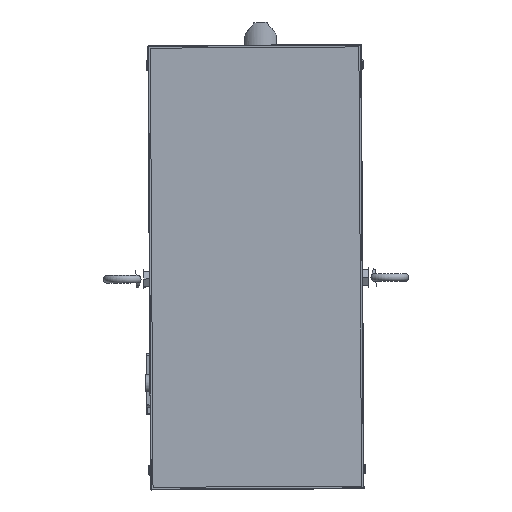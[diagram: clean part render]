
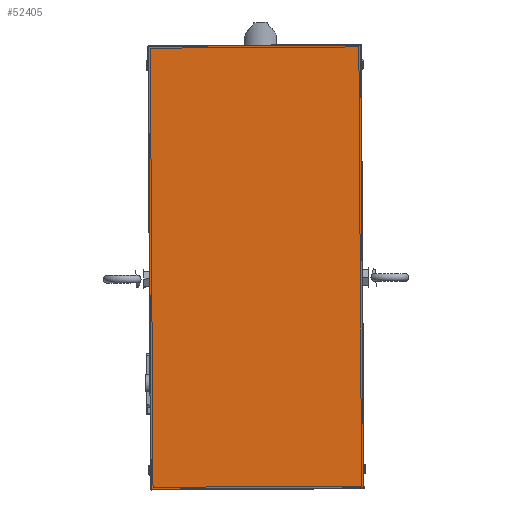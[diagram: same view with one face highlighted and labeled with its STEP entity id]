
A CAD part, top view. The second image highlights one B-rep face of the part: STEP entity #52405.
In plain terms, the highlighted planar face has unit normal (0, 0, 1).
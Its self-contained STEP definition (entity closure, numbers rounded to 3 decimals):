
#2593=PLANE('',#56734);
#7384=FACE_OUTER_BOUND('',#10453,.T.);
#10453=EDGE_LOOP('',(#42412,#42413,#42414,#42415));
#16631=LINE('',#84911,#20457);
#16632=LINE('',#84913,#20458);
#16633=LINE('',#84915,#20459);
#16634=LINE('',#84916,#20460);
#20457=VECTOR('',#66796,10.);
#20458=VECTOR('',#66797,10.);
#20459=VECTOR('',#66798,10.);
#20460=VECTOR('',#66799,10.);
#25201=VERTEX_POINT('',#84909);
#25202=VERTEX_POINT('',#84910);
#25203=VERTEX_POINT('',#84912);
#25204=VERTEX_POINT('',#84914);
#31381=EDGE_CURVE('',#25201,#25202,#16631,.T.);
#31382=EDGE_CURVE('',#25203,#25201,#16632,.T.);
#31383=EDGE_CURVE('',#25204,#25203,#16633,.T.);
#31384=EDGE_CURVE('',#25202,#25204,#16634,.T.);
#42412=ORIENTED_EDGE('',*,*,#31381,.F.);
#42413=ORIENTED_EDGE('',*,*,#31382,.F.);
#42414=ORIENTED_EDGE('',*,*,#31383,.F.);
#42415=ORIENTED_EDGE('',*,*,#31384,.F.);
#52405=ADVANCED_FACE('',(#7384),#2593,.T.);
#56734=AXIS2_PLACEMENT_3D('',#84908,#66794,#66795);
#66794=DIRECTION('center_axis',(0.,0.,
1.));
#66795=DIRECTION('ref_axis',(-0.006,1.,0.));
#66796=DIRECTION('',(0.006,-1.,0.));
#66797=DIRECTION('',(1.,0.006,0.));
#66798=DIRECTION('',(-0.006,1.,0.));
#66799=DIRECTION('',(-1.,-0.006,0.));
#84908=CARTESIAN_POINT('Origin',(-86.673,272.473,686.));
#84909=CARTESIAN_POINT('',(84.815,275.025,686.));
#84910=CARTESIAN_POINT('',(87.029,-85.968,686.));
#84911=CARTESIAN_POINT('',(84.824,273.525,686.));
#84912=CARTESIAN_POINT('',(-88.182,273.964,686.));
#84913=CARTESIAN_POINT('',(-44.183,274.234,686.));
#84914=CARTESIAN_POINT('',(-85.968,-87.029,686.));
#84915=CARTESIAN_POINT('',(-88.173,272.464,686.));
#84916=CARTESIAN_POINT('',(-41.969,-86.759,686.));
